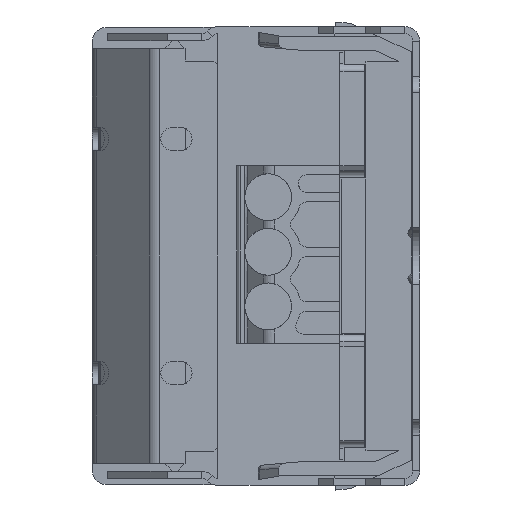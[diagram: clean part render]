
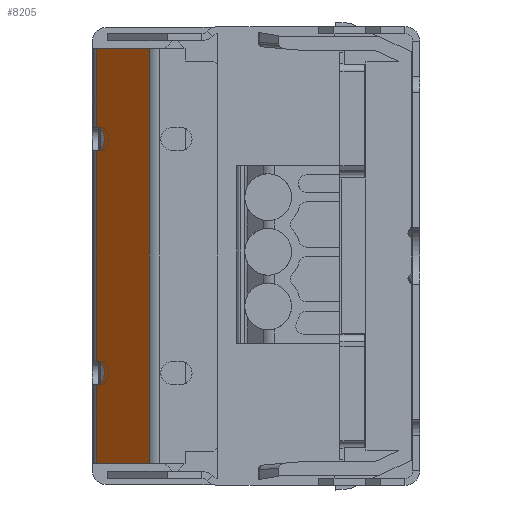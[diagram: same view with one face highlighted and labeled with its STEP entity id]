
A CAD part, left-side view. The second image highlights one B-rep face of the part: STEP entity #8205.
In plain terms, the highlighted planar face has unit normal (-0.707, 0.707, 0).
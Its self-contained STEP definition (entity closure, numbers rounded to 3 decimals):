
#646 = CARTESIAN_POINT ( 'NONE',  ( -113.736, 7.845, 14.65 ) ) ;
#1218 = VERTEX_POINT ( 'NONE', #5460 ) ;
#1556 = DIRECTION ( 'NONE',  ( 0., 0., 1. ) ) ;
#1773 = VECTOR ( 'NONE', #4056, 1000. ) ;
#2337 = DIRECTION ( 'NONE',  ( 0., 0., -1. ) ) ;
#2385 = EDGE_LOOP ( 'NONE', ( #5581, #12987, #31269, #17492, #11210, #30544, #20229, #13471 ) ) ;
#2454 = CARTESIAN_POINT ( 'NONE',  ( -110.342, 11.239, 8.25 ) ) ;
#2853 = VERTEX_POINT ( 'NONE', #33761 ) ;
#3054 = AXIS2_PLACEMENT_3D ( 'NONE', #22431, #5785, #25199 ) ;
#3452 = DIRECTION ( 'NONE',  ( 0., 0., -1. ) ) ;
#4056 = DIRECTION ( 'NONE',  ( -0.707, -0.707, 0. ) ) ;
#4316 = VERTEX_POINT ( 'NONE', #16684 ) ;
#4340 = DIRECTION ( 'NONE',  ( 0., 0., -1. ) ) ;
#4677 = CIRCLE ( 'NONE', #8408, 0.75 ) ;
#4927 = VECTOR ( 'NONE', #28897, 1000. ) ;
#5377 = VECTOR ( 'NONE', #26972, 1000. ) ;
#5396 = VERTEX_POINT ( 'NONE', #34675 ) ;
#5460 = CARTESIAN_POINT ( 'NONE',  ( -113.736, 7.845, -13.3 ) ) ;
#5581 = ORIENTED_EDGE ( 'NONE', *, *, #10406, .F. ) ;
#5785 = DIRECTION ( 'NONE',  ( -0.707, 0.707, 0. ) ) ;
#6250 = LINE ( 'NONE', #646, #26618 ) ;
#6683 = EDGE_CURVE ( 'NONE', #36007, #1218, #23947, .T. ) ;
#7593 = CARTESIAN_POINT ( 'NONE',  ( -110.342, 11.239, 14.65 ) ) ;
#8205 = ADVANCED_FACE ( 'NONE', ( #8931 ), #15308, .T. ) ;
#8408 = AXIS2_PLACEMENT_3D ( 'NONE', #35548, #18968, #2337 ) ;
#8931 = FACE_OUTER_BOUND ( 'NONE', #2385, .T. ) ;
#8997 = DIRECTION ( 'NONE',  ( 0., 0., -1. ) ) ;
#9659 = EDGE_CURVE ( 'NONE', #5396, #36007, #24648, .T. ) ;
#10406 = EDGE_CURVE ( 'NONE', #4316, #1218, #6250, .T. ) ;
#10760 = VERTEX_POINT ( 'NONE', #2454 ) ;
#11198 = EDGE_CURVE ( 'NONE', #2853, #35280, #29562, .T. ) ;
#11210 = ORIENTED_EDGE ( 'NONE', *, *, #11198, .T. ) ;
#11760 = CARTESIAN_POINT ( 'NONE',  ( -110.342, 11.239, 14.65 ) ) ;
#12611 = CARTESIAN_POINT ( 'NONE',  ( -110.342, 11.239, 14.65 ) ) ;
#12987 = ORIENTED_EDGE ( 'NONE', *, *, #26121, .F. ) ;
#13471 = ORIENTED_EDGE ( 'NONE', *, *, #6683, .T. ) ;
#15023 = CARTESIAN_POINT ( 'NONE',  ( -109.808, 11.773, -13.3 ) ) ;
#15308 = PLANE ( 'NONE',  #26150 ) ;
#16677 = LINE ( 'NONE', #7593, #5377 ) ;
#16684 = CARTESIAN_POINT ( 'NONE',  ( -113.736, 7.845, 13.3 ) ) ;
#17492 = ORIENTED_EDGE ( 'NONE', *, *, #24158, .F. ) ;
#18204 = DIRECTION ( 'NONE',  ( -0.707, 0.707, 0. ) ) ;
#18968 = DIRECTION ( 'NONE',  ( -0.707, 0.707, 0. ) ) ;
#19714 = CARTESIAN_POINT ( 'NONE',  ( -110.342, 11.239, -6.75 ) ) ;
#20229 = ORIENTED_EDGE ( 'NONE', *, *, #9659, .T. ) ;
#22431 = CARTESIAN_POINT ( 'NONE',  ( -110.324, 11.257, 7.5 ) ) ;
#22836 = CARTESIAN_POINT ( 'NONE',  ( -110.342, 11.239, 13.3 ) ) ;
#23395 = CARTESIAN_POINT ( 'NONE',  ( -109.808, 11.773, 13.3 ) ) ;
#23751 = VECTOR ( 'NONE', #8997, 1000. ) ;
#23947 = LINE ( 'NONE', #15023, #1773 ) ;
#24158 = EDGE_CURVE ( 'NONE', #2853, #10760, #32524, .T. ) ;
#24648 = LINE ( 'NONE', #11760, #23751 ) ;
#25199 = DIRECTION ( 'NONE',  ( 0., 0., 1. ) ) ;
#26121 = EDGE_CURVE ( 'NONE', #30299, #4316, #27059, .T. ) ;
#26150 = AXIS2_PLACEMENT_3D ( 'NONE', #34788, #18204, #1556 ) ;
#26618 = VECTOR ( 'NONE', #3452, 1000. ) ;
#26972 = DIRECTION ( 'NONE',  ( 0., 0., -1. ) ) ;
#27059 = LINE ( 'NONE', #23395, #4927 ) ;
#28699 = VECTOR ( 'NONE', #4340, 1000. ) ;
#28897 = DIRECTION ( 'NONE',  ( -0.707, -0.707, 0. ) ) ;
#29562 = LINE ( 'NONE', #12611, #28699 ) ;
#30035 = EDGE_CURVE ( 'NONE', #5396, #35280, #4677, .T. ) ;
#30299 = VERTEX_POINT ( 'NONE', #22836 ) ;
#30544 = ORIENTED_EDGE ( 'NONE', *, *, #30035, .F. ) ;
#31269 = ORIENTED_EDGE ( 'NONE', *, *, #32946, .T. ) ;
#31493 = CARTESIAN_POINT ( 'NONE',  ( -110.342, 11.239, -13.3 ) ) ;
#32524 = CIRCLE ( 'NONE', #3054, 0.75 ) ;
#32946 = EDGE_CURVE ( 'NONE', #30299, #10760, #16677, .T. ) ;
#33761 = CARTESIAN_POINT ( 'NONE',  ( -110.342, 11.239, 6.75 ) ) ;
#34675 = CARTESIAN_POINT ( 'NONE',  ( -110.342, 11.239, -8.25 ) ) ;
#34788 = CARTESIAN_POINT ( 'NONE',  ( 45.049, 166.629, 14.65 ) ) ;
#35280 = VERTEX_POINT ( 'NONE', #19714 ) ;
#35548 = CARTESIAN_POINT ( 'NONE',  ( -110.324, 11.257, -7.5 ) ) ;
#36007 = VERTEX_POINT ( 'NONE', #31493 ) ;
